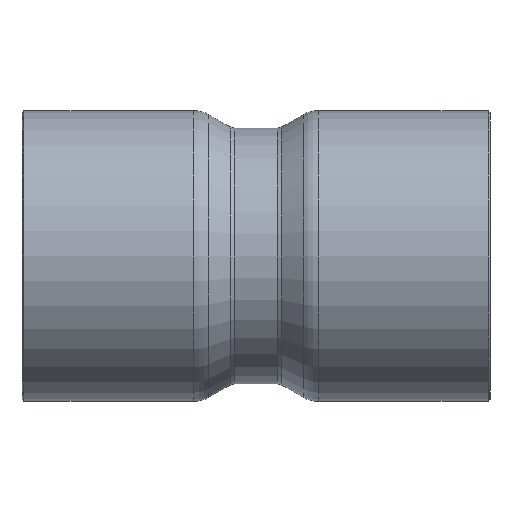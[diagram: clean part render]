
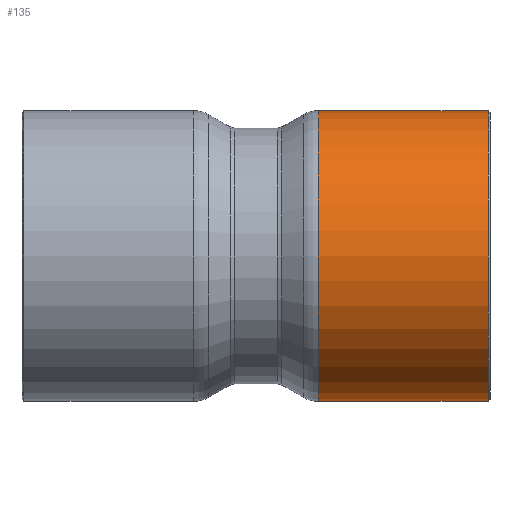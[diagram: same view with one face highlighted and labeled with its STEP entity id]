
A CAD part, front view. The second image highlights one B-rep face of the part: STEP entity #135.
In plain terms, the highlighted cylindrical face has radius 16.25 mm (diameter 32.5 mm), a full revolution.
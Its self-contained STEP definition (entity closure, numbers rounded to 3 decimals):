
#73=CARTESIAN_POINT('',(25.95,16.25,0.));
#74=VERTEX_POINT('',#73);
#75=CARTESIAN_POINT('',(25.95,0.0,0.0));
#76=DIRECTION('',(1.0,0.0,0.0));
#77=DIRECTION('',(0.0,-1.0,0.0));
#78=AXIS2_PLACEMENT_3D('',#75,#76,#77);
#79=CIRCLE('',#78,16.25);
#80=EDGE_CURVE('',#74,#74,#79,.T.);
#116=CARTESIAN_POINT('',(16.564,0.0,0.0));
#117=DIRECTION('',(1.0,0.0,0.0));
#118=DIRECTION('',(0.0,1.0,0.0));
#119=AXIS2_PLACEMENT_3D('',#116,#117,#118);
#120=CYLINDRICAL_SURFACE('',#119,16.25);
#121=CARTESIAN_POINT('',(6.978,16.25,0.0));
#122=VERTEX_POINT('',#121);
#123=CARTESIAN_POINT('',(6.978,0.0,0.0));
#124=DIRECTION('',(1.0,0.0,0.0));
#125=DIRECTION('',(0.0,1.0,0.0));
#126=AXIS2_PLACEMENT_3D('',#123,#124,#125);
#127=CIRCLE('',#126,16.25);
#128=EDGE_CURVE('',#122,#122,#127,.T.);
#129=ORIENTED_EDGE('',*,*,#128,.T.);
#130=EDGE_LOOP('',(#129));
#131=FACE_OUTER_BOUND('',#130,.T.);
#132=ORIENTED_EDGE('',*,*,#80,.F.);
#133=EDGE_LOOP('',(#132));
#134=FACE_BOUND('',#133,.T.);
#135=ADVANCED_FACE('',(#131,#134),#120,.T.);
